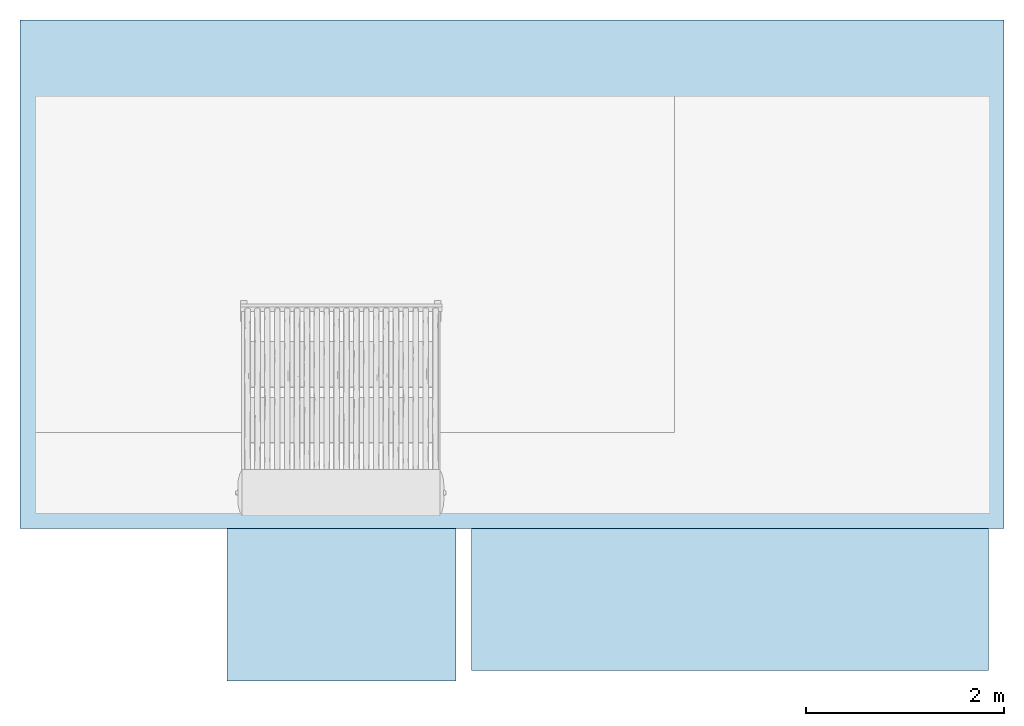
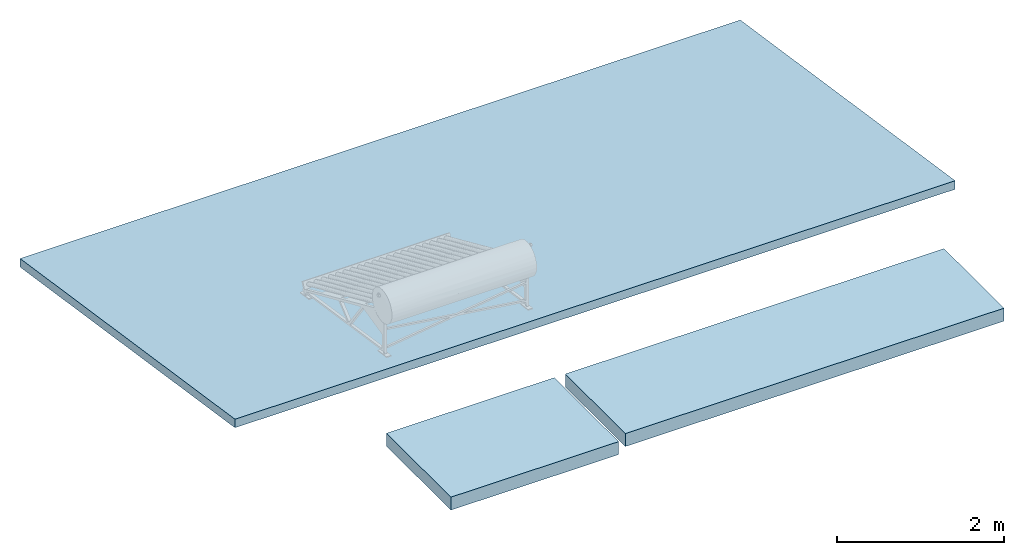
# One storey, part 1 of 2: 3 slabs, 3 elements without a shape of their own.
"""IFC2X3 building model written with IfcOpenShell, lengths in metres."""

from ifc_helpers import new_model, entity, si_unit, converted_unit, derived_unit, direction, frame, frame_2d, origin, place, context, subcontext, project, spatial, rectangle, extrude, material, layer, layer_set, element, aggregate, save


model = new_model("IFC2X3")

# Units and contexts
model_context = context("Model", 3, precision=1e-05, world=origin(), true_north=direction((6.12303176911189e-17, 1.0)))
body_context = subcontext(model_context, "Body", "Model", "MODEL_VIEW")
ifc_project = project(units=[si_unit("LENGTHUNIT", "METRE"), si_unit("AREAUNIT", "SQUARE_METRE"), si_unit("VOLUMEUNIT", "CUBIC_METRE"), converted_unit("PLANEANGLEUNIT", "DEGREE", entity("IfcRatioMeasure", 0.0174532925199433), si_unit("PLANEANGLEUNIT", "RADIAN"), dimensions=[0, 0, 0, 0, 0, 0, 0]), si_unit("MASSUNIT", "GRAM", prefix="KILO"), derived_unit("MASSDENSITYUNIT", [(si_unit("MASSUNIT", "GRAM", prefix="KILO"), 1), (si_unit("LENGTHUNIT", "METRE"), -3)]), si_unit("TIMEUNIT", "SECOND"), si_unit("FREQUENCYUNIT", "HERTZ"), si_unit("THERMODYNAMICTEMPERATUREUNIT", "DEGREE_CELSIUS"), derived_unit("THERMALTRANSMITTANCEUNIT", [(si_unit("MASSUNIT", "GRAM", prefix="KILO"), 1), (si_unit("THERMODYNAMICTEMPERATUREUNIT", "KELVIN"), -1), (si_unit("TIMEUNIT", "SECOND"), -3)]), derived_unit("VOLUMETRICFLOWRATEUNIT", [(si_unit("LENGTHUNIT", "METRE"), 3), (si_unit("TIMEUNIT", "SECOND"), -1)]), si_unit("ELECTRICCURRENTUNIT", "AMPERE"), si_unit("ELECTRICVOLTAGEUNIT", "VOLT"), si_unit("POWERUNIT", "WATT"), si_unit("FORCEUNIT", "NEWTON", prefix="KILO"), si_unit("ILLUMINANCEUNIT", "LUX"), si_unit("LUMINOUSFLUXUNIT", "LUMEN"), si_unit("LUMINOUSINTENSITYUNIT", "CANDELA"), derived_unit("USERDEFINED", [(si_unit("MASSUNIT", "GRAM", prefix="KILO"), -1), (si_unit("LENGTHUNIT", "METRE"), -2), (si_unit("TIMEUNIT", "SECOND"), 3), (si_unit("LUMINOUSFLUXUNIT", "LUMEN"), 1)]), derived_unit("LINEARVELOCITYUNIT", [(si_unit("LENGTHUNIT", "METRE"), 1), (si_unit("TIMEUNIT", "SECOND"), -1)]), si_unit("PRESSUREUNIT", "PASCAL"), derived_unit("USERDEFINED", [(si_unit("LENGTHUNIT", "METRE"), -2), (si_unit("MASSUNIT", "GRAM", prefix="KILO"), 1), (si_unit("TIMEUNIT", "SECOND"), -2)])], contexts=[model_context])

# Site, building, storey
site_placement = place(None, origin())
site = spatial("IfcSite", under=ifc_project, at=site_placement, Name="Surface", CompositionType="ELEMENT")
building_placement = place(site_placement, origin())
building = spatial("IfcBuilding", under=site, at=building_placement, CompositionType="ELEMENT")
storey_placement = place(building_placement, frame((0.0, 0.0, 2.69999999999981)))
storey = spatial("IfcBuildingStorey", under=building, at=storey_placement, Name="Nivel 1", CompositionType="ELEMENT", Elevation=2.69999999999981)

# Roof, slab
roof_1_placement = place(storey_placement, frame((-8.99558547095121, -1.83204870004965, -0.000816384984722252)))
roof_1 = element("IfcRoof", 1, at=roof_1_placement, inside=storey, Name="Basic Roof:PC-NW-101", ObjectType="Basic Roof:PC-NW-101", ShapeType="NOTDEFINED")
ifc_material_1 = material(Name="Membrana asfáltica")
ifc_layer_1 = layer(ifc_material_1, 0.004)
ifc_material_2 = material(Name="OSB")
ifc_layer_2 = layer(ifc_material_2, 0.012)
ifc_material_3 = material(Name="Espuma Poliuretano Inyectado")
ifc_layer_3 = layer(ifc_material_3, 0.095)
ifc_layer_4 = layer(ifc_material_2, 0.012)
ifc_layer_set_1 = layer_set([ifc_layer_1, ifc_layer_2, ifc_layer_3, ifc_layer_4], Name="Basic Roof:PC-NW-101")
slab_1_placement = place(roof_1_placement, origin())
slab_1 = element("IfcSlab", 2, at=slab_1_placement, material=ifc_layer_set_1, Name="Basic Roof:PC-NW-101", ObjectType="Basic Roof:PC-NW-101", PredefinedType="ROOF", context=body_context, shape_type="SweptSolid", body=[
    extrude(rectangle(XDim=5.1936110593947, YDim=9.935, at=frame_2d((0.0, 0.0), x_axis=(0.0, -1.0))), frame((4.9675, 2.56807538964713, 0.385211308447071), z_axis=(0.0, 0.148340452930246, 0.988936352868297), x_axis=(1.0, 0.0, 0.0)), (0.0, -0.148340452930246, 0.988936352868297), 0.124376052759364),
])
aggregate(roof_1, [slab_1])

roof_2_placement = place(storey_placement, frame((-6.90601368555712, -3.37078532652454, -0.230000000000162)))
roof_2 = element("IfcRoof", 3, at=roof_2_placement, inside=storey, Name="Basic Roof:PC-NW-102", ObjectType="Basic Roof:PC-NW-102", ShapeType="NOTDEFINED")
ifc_material_4 = material(Name="Aislación térmica e hidrófuga")
ifc_layer_5 = layer(ifc_material_4, 0.07)
ifc_layer_6 = layer(ifc_material_2, 0.012)
ifc_material_5 = material(Name="Poliestireno expandido")
ifc_layer_7 = layer(ifc_material_5, 0.095)
ifc_layer_8 = layer(ifc_material_2, 0.012)
ifc_layer_set_2 = layer_set([ifc_layer_5, ifc_layer_6, ifc_layer_7, ifc_layer_8], Name="Basic Roof:PC-NW-102")
slab_2_placement = place(roof_2_placement, origin())
slab_2 = element("IfcSlab", 4, at=slab_2_placement, material=ifc_layer_set_2, Name="Basic Roof:PC-NW-102", ObjectType="Basic Roof:PC-NW-102", PredefinedType="ROOF", context=body_context, shape_type="SweptSolid", body=[
    extrude(rectangle(XDim=1.53873662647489, YDim=2.31499999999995, at=frame_2d((-2.22044604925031e-16, 2.77555756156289e-16), x_axis=(0.0, 1.0))), frame((1.15749999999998, 0.769368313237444, 0.0)), (0.0, 0.0, 1.0), 0.189),
])
aggregate(roof_2, [slab_2])

roof_3_placement = place(storey_placement, frame((-4.43901368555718, -3.26578532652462, -0.230000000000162)))
roof_3 = element("IfcRoof", 5, at=roof_3_placement, inside=storey, Name="Basic Roof:PC-NW-102", ObjectType="Basic Roof:PC-NW-102", ShapeType="NOTDEFINED")
slab_3_placement = place(roof_3_placement, origin())
slab_3 = element("IfcSlab", 6, at=slab_3_placement, material=ifc_layer_set_2, Name="Basic Roof:PC-NW-102", ObjectType="Basic Roof:PC-NW-102", PredefinedType="ROOF", context=body_context, shape_type="SweptSolid", body=[
    extrude(rectangle(XDim=5.22342821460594, YDim=1.43373662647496, at=frame_2d((0.0, 2.77555756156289e-16), x_axis=(-1.0, 0.0))), frame((2.61171410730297, 0.716868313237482, 0.0)), (0.0, 0.0, 1.0), 0.189),
])
aggregate(roof_3, [slab_3])

save(model, "model.ifc")
